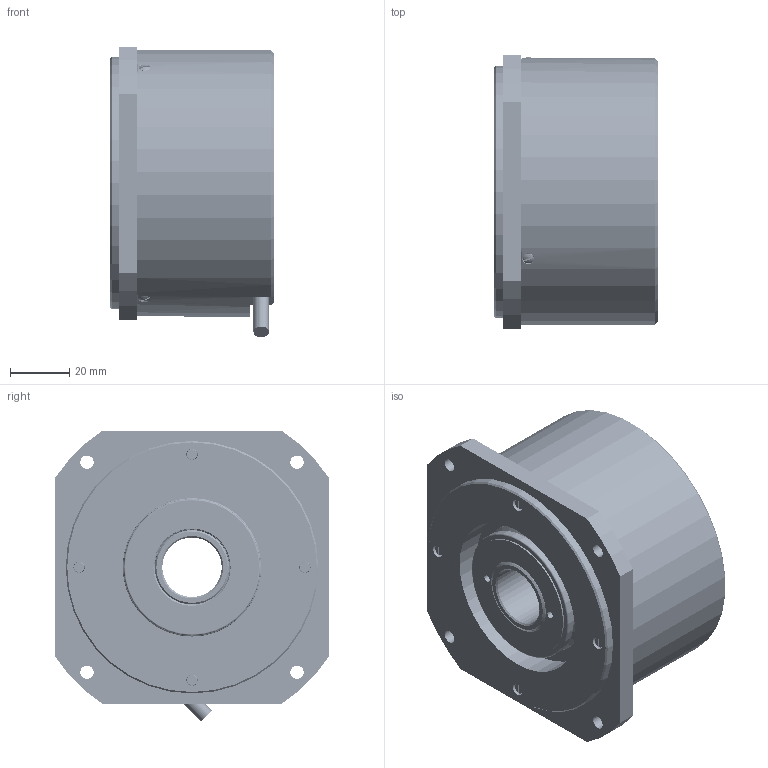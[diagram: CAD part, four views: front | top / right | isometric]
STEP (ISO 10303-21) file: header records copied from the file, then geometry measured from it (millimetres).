
FILE_DESCRIPTION (( 'STEP AP214' ), '1' );
FILE_NAME ('ﾋﾈﾐ-390ﾔ.STEP', '2017-05-23T08:48:10', ( '' ), ( '' ), 'SwSTEP 2.0', 'SolidWorks 2013', '' );
FILE_SCHEMA (( 'AUTOMOTIVE_DESIGN' ));
Length unit declared in the file: millimetre
Products named in the file (1): ﾋﾈﾐ-390ﾔ
Bounding box: 55.06 x 92 x 97.91 mm (x, y, z)
Volume: 188991.6 mm3; surface area: 127486.9 mm2
Topology: 39 solids, 39 shells, 2632 faces, 7456 edges, 4837 vertices
Faces by surface type: cone 885, cylinder 840, sphere 428, plane 239, torus 220, bspline 20
Entity records: 140040 total; most frequent: CARTESIAN_POINT 43028, ORIENTED_EDGE 14892, DIRECTION 14167, EDGE_CURVE 7446, AXIS2_PLACEMENT_3D 6154, VERTEX_POINT 4837, CIRCLE 3541, EDGE_LOOP 2915
